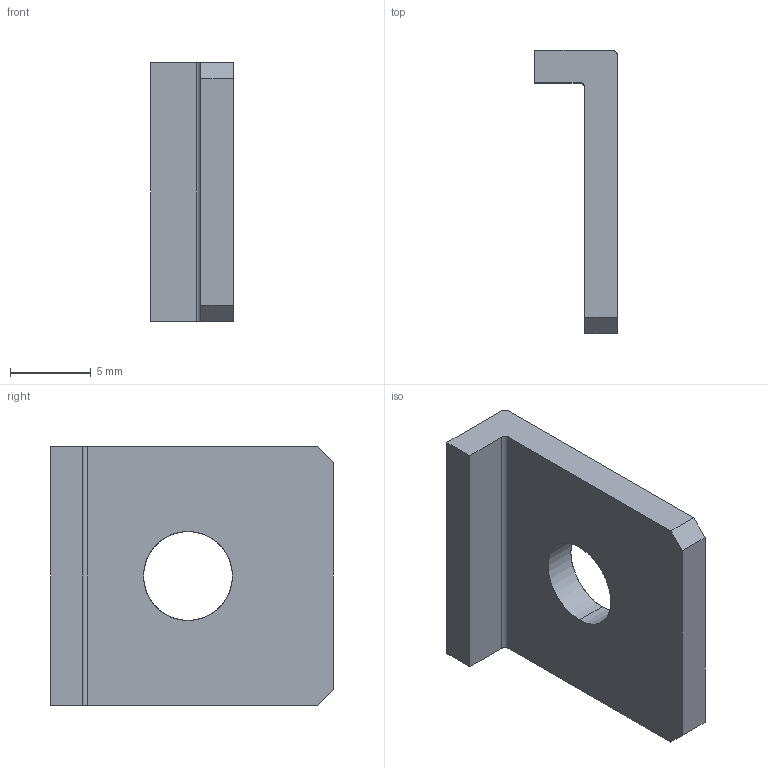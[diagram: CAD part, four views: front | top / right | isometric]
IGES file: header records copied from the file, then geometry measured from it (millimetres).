
Start section: SolidWorks IGES file using analytic representation for surfaces
Global section: file name: ラーデータ\MD Spirit 2024_SOLIDWORKS 2023\２＿アブソリュート\2_ロータリーエンコーダ\1_AMシリーズ　マルチターン式ABSエンコーダ＿コネクタ出しタイプ\IGES\サーボマウントクランプ.IGS; native system: SolidWorks 2023; preprocessor: SolidWorks 2023; author: sunahara; date: 240618.113032; units: millimetre
Bounding box: 5.1 x 17.5 x 16 mm (x, y, z)
Surface area: 784.2 mm2 (no closed solid volume)
Topology: 0 solids, 0 shells, 14 faces, 144 edges, 144 vertices
Faces by surface type: bspline 10, revolution 4
